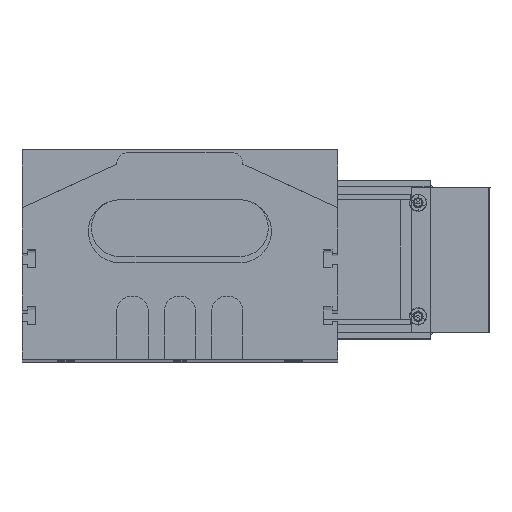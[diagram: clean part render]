
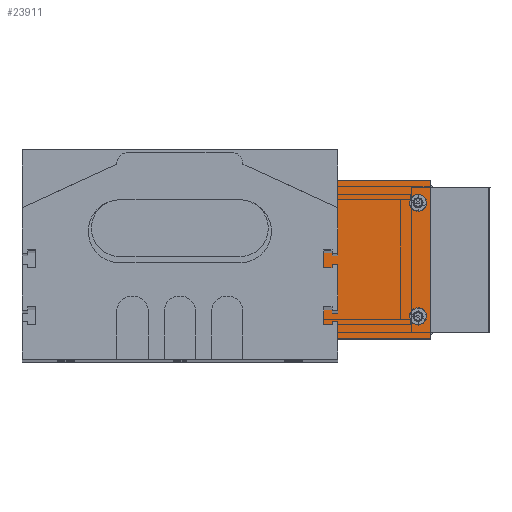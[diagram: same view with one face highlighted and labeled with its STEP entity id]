
A CAD part, top view. The second image highlights one B-rep face of the part: STEP entity #23911.
In plain terms, the highlighted planar face has unit normal (0, 0, 1) as drawn and (0, -1, 0) by its records, which use the part's own axes.
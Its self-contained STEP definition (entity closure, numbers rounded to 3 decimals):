
#5454 = DIRECTION ( 'NONE',  ( 0., 0., -1. ) ) ;
#5455 = DIRECTION ( 'NONE',  ( 0., -1., 0. ) ) ;
#5456 = CARTESIAN_POINT ( 'NONE',  ( -39., -2., 10. ) ) ;
#5458 = CIRCLE ( 'NONE', #5467, 2.75 ) ;
#5467 = AXIS2_PLACEMENT_3D ( 'NONE', #5456, #5455, #5454 ) ;
#5486 = CARTESIAN_POINT ( 'NONE',  ( -39., -2., 7.25 ) ) ;
#5498 = CARTESIAN_POINT ( 'NONE',  ( -39., -2., 12.75 ) ) ;
#5551 = CARTESIAN_POINT ( 'NONE',  ( -39., -2., -12.75 ) ) ;
#5552 = CARTESIAN_POINT ( 'NONE',  ( 20.2, -2., 15.25 ) ) ;
#5553 = AXIS2_PLACEMENT_3D ( 'NONE', #5585, #5586, #5578 ) ;
#5554 = DIRECTION ( 'NONE',  ( 0., 0., -1. ) ) ;
#5555 = DIRECTION ( 'NONE',  ( 0., -1., 0. ) ) ;
#5556 = CARTESIAN_POINT ( 'NONE',  ( 20.2, -2., -18. ) ) ;
#5557 = AXIS2_PLACEMENT_3D ( 'NONE', #5556, #5555, #5554 ) ;
#5558 = CIRCLE ( 'NONE', #5557, 2.75 ) ;
#5564 = DIRECTION ( 'NONE',  ( 0., 0., -1. ) ) ;
#5565 = DIRECTION ( 'NONE',  ( 0., -1., 0. ) ) ;
#5566 = CARTESIAN_POINT ( 'NONE',  ( 20.2, -2., 18. ) ) ;
#5567 = AXIS2_PLACEMENT_3D ( 'NONE', #5566, #5565, #5564 ) ;
#5568 = CIRCLE ( 'NONE', #5567, 2.75 ) ;
#5572 = CARTESIAN_POINT ( 'NONE',  ( 20.2, -2., -20.75 ) ) ;
#5577 = CARTESIAN_POINT ( 'NONE',  ( 37., -2., -25. ) ) ;
#5578 = DIRECTION ( 'NONE',  ( 0., 0., -1. ) ) ;
#5580 = CARTESIAN_POINT ( 'NONE',  ( 20.2, -2., -15.25 ) ) ;
#5583 = DIRECTION ( 'NONE',  ( 0., 0., -1. ) ) ;
#5584 = DIRECTION ( 'NONE',  ( 0., -1., 0. ) ) ;
#5585 = CARTESIAN_POINT ( 'NONE',  ( 20.2, -2., 18. ) ) ;
#5586 = DIRECTION ( 'NONE',  ( 0., -1., 0. ) ) ;
#5587 = CARTESIAN_POINT ( 'NONE',  ( -39., -2., -10. ) ) ;
#5588 = AXIS2_PLACEMENT_3D ( 'NONE', #5587, #5584, #5583 ) ;
#5589 = CIRCLE ( 'NONE', #5588, 2.75 ) ;
#5590 = CIRCLE ( 'NONE', #5553, 2.75 ) ;
#5600 = CARTESIAN_POINT ( 'NONE',  ( -39., -2., -7.25 ) ) ;
#5601 = CARTESIAN_POINT ( 'NONE',  ( 20.2, -2., 20.75 ) ) ;
#5608 = FACE_BOUND ( 'NONE', #23903, .T. ) ;
#5610 = FACE_OUTER_BOUND ( 'NONE', #23926, .T. ) ;
#5611 = FACE_BOUND ( 'NONE', #23967, .T. ) ;
#5613 = DIRECTION ( 'NONE',  ( 0., 0., 1. ) ) ;
#5614 = DIRECTION ( 'NONE',  ( 0., 1., 0. ) ) ;
#5615 = FACE_BOUND ( 'NONE', #23982, .T. ) ;
#5616 = PLANE ( 'NONE',  #5631 ) ;
#5617 = FACE_BOUND ( 'NONE', #23980, .T. ) ;
#5622 = CARTESIAN_POINT ( 'NONE',  ( 24., -2., 25. ) ) ;
#5624 = CARTESIAN_POINT ( 'NONE',  ( 24., -2., -25. ) ) ;
#5631 = AXIS2_PLACEMENT_3D ( 'NONE', #5577, #5614, #5613 ) ;
#5639 = AXIS2_PLACEMENT_3D ( 'NONE', #5695, #5696, #5689 ) ;
#5643 = AXIS2_PLACEMENT_3D ( 'NONE', #5702, #5701, #5700 ) ;
#5645 = DIRECTION ( 'NONE',  ( 0., 0., -1. ) ) ;
#5646 = VECTOR ( 'NONE', #5645, 1000. ) ;
#5648 = CARTESIAN_POINT ( 'NONE',  ( 24., -2., 25. ) ) ;
#5649 = LINE ( 'NONE', #5648, #5646 ) ;
#5650 = CIRCLE ( 'NONE', #5643, 2.75 ) ;
#5651 = DIRECTION ( 'NONE',  ( 0., 0., 1. ) ) ;
#5652 = VECTOR ( 'NONE', #5651, 1000. ) ;
#5658 = CARTESIAN_POINT ( 'NONE',  ( -42., -2., 25. ) ) ;
#5662 = DIRECTION ( 'NONE',  ( 1., 0., 0. ) ) ;
#5663 = VECTOR ( 'NONE', #5662, 1000. ) ;
#5664 = CARTESIAN_POINT ( 'NONE',  ( -37., -2., 25. ) ) ;
#5665 = LINE ( 'NONE', #5664, #5663 ) ;
#5666 = CARTESIAN_POINT ( 'NONE',  ( -42., -2., -25. ) ) ;
#5667 = LINE ( 'NONE', #5666, #5652 ) ;
#5681 = DIRECTION ( 'NONE',  ( 0., 0., -1. ) ) ;
#5682 = DIRECTION ( 'NONE',  ( 0., -1., 0. ) ) ;
#5683 = CARTESIAN_POINT ( 'NONE',  ( 20.2, -2., -18. ) ) ;
#5684 = AXIS2_PLACEMENT_3D ( 'NONE', #5683, #5682, #5681 ) ;
#5685 = CIRCLE ( 'NONE', #5684, 2.75 ) ;
#5689 = DIRECTION ( 'NONE',  ( 0., 0., -1. ) ) ;
#5695 = CARTESIAN_POINT ( 'NONE',  ( -39., -2., 10. ) ) ;
#5696 = DIRECTION ( 'NONE',  ( 0., -1., 0. ) ) ;
#5699 = CIRCLE ( 'NONE', #5639, 2.75 ) ;
#5700 = DIRECTION ( 'NONE',  ( 0., 0., -1. ) ) ;
#5701 = DIRECTION ( 'NONE',  ( 0., -1., 0. ) ) ;
#5702 = CARTESIAN_POINT ( 'NONE',  ( -39., -2., -10. ) ) ;
#5703 = CARTESIAN_POINT ( 'NONE',  ( -42., -2., -25. ) ) ;
#5755 = DIRECTION ( 'NONE',  ( -1., 0., 0. ) ) ;
#5756 = VECTOR ( 'NONE', #5755, 1000. ) ;
#5757 = CARTESIAN_POINT ( 'NONE',  ( 37., -2., -25. ) ) ;
#5758 = LINE ( 'NONE', #5757, #5756 ) ;
#23822 = EDGE_CURVE ( 'NONE', #23840, #23839, #5458, .T. ) ;
#23839 = VERTEX_POINT ( 'NONE', #5486 ) ;
#23840 = VERTEX_POINT ( 'NONE', #5498 ) ;
#23864 = EDGE_CURVE ( 'NONE', #23874, #23880, #5568, .T. ) ;
#23871 = EDGE_CURVE ( 'NONE', #23894, #23893, #5558, .T. ) ;
#23874 = VERTEX_POINT ( 'NONE', #5552 ) ;
#23880 = VERTEX_POINT ( 'NONE', #5601 ) ;
#23881 = VERTEX_POINT ( 'NONE', #5551 ) ;
#23886 = VERTEX_POINT ( 'NONE', #5600 ) ;
#23888 = EDGE_CURVE ( 'NONE', #23886, #23881, #5589, .T. ) ;
#23889 = EDGE_CURVE ( 'NONE', #23880, #23874, #5590, .T. ) ;
#23893 = VERTEX_POINT ( 'NONE', #5572 ) ;
#23894 = VERTEX_POINT ( 'NONE', #5580 ) ;
#23903 = EDGE_LOOP ( 'NONE', ( #23984, #23908 ) ) ;
#23904 = ORIENTED_EDGE ( 'NONE', *, *, #23864, .F. ) ;
#23908 = ORIENTED_EDGE ( 'NONE', *, *, #23871, .F. ) ;
#23909 = VERTEX_POINT ( 'NONE', #5622 ) ;
#23910 = VERTEX_POINT ( 'NONE', #5624 ) ;
#23911 = ADVANCED_FACE ( 'NONE', ( #5610, #5617, #5615, #5608, #5611 ), #5616, .F. ) ;
#23913 = EDGE_CURVE ( 'NONE', #23919, #23909, #5665, .T. ) ;
#23914 = ORIENTED_EDGE ( 'NONE', *, *, #23918, .F. ) ;
#23915 = ORIENTED_EDGE ( 'NONE', *, *, #23978, .F. ) ;
#23916 = ORIENTED_EDGE ( 'NONE', *, *, #23913, .F. ) ;
#23918 = EDGE_CURVE ( 'NONE', #23932, #23919, #5667, .T. ) ;
#23919 = VERTEX_POINT ( 'NONE', #5658 ) ;
#23921 = EDGE_CURVE ( 'NONE', #23909, #23910, #5649, .T. ) ;
#23926 = EDGE_LOOP ( 'NONE', ( #23931, #23916, #23914, #23915 ) ) ;
#23927 = EDGE_CURVE ( 'NONE', #23881, #23886, #5650, .T. ) ;
#23931 = ORIENTED_EDGE ( 'NONE', *, *, #23921, .F. ) ;
#23932 = VERTEX_POINT ( 'NONE', #5703 ) ;
#23933 = ORIENTED_EDGE ( 'NONE', *, *, #23888, .F. ) ;
#23936 = EDGE_CURVE ( 'NONE', #23839, #23840, #5699, .T. ) ;
#23938 = EDGE_CURVE ( 'NONE', #23893, #23894, #5685, .T. ) ;
#23967 = EDGE_LOOP ( 'NONE', ( #23904, #23968 ) ) ;
#23968 = ORIENTED_EDGE ( 'NONE', *, *, #23889, .F. ) ;
#23978 = EDGE_CURVE ( 'NONE', #23910, #23932, #5758, .T. ) ;
#23979 = ORIENTED_EDGE ( 'NONE', *, *, #23927, .F. ) ;
#23980 = EDGE_LOOP ( 'NONE', ( #23981, #23983 ) ) ;
#23981 = ORIENTED_EDGE ( 'NONE', *, *, #23936, .F. ) ;
#23982 = EDGE_LOOP ( 'NONE', ( #23979, #23933 ) ) ;
#23983 = ORIENTED_EDGE ( 'NONE', *, *, #23822, .F. ) ;
#23984 = ORIENTED_EDGE ( 'NONE', *, *, #23938, .F. ) ;
